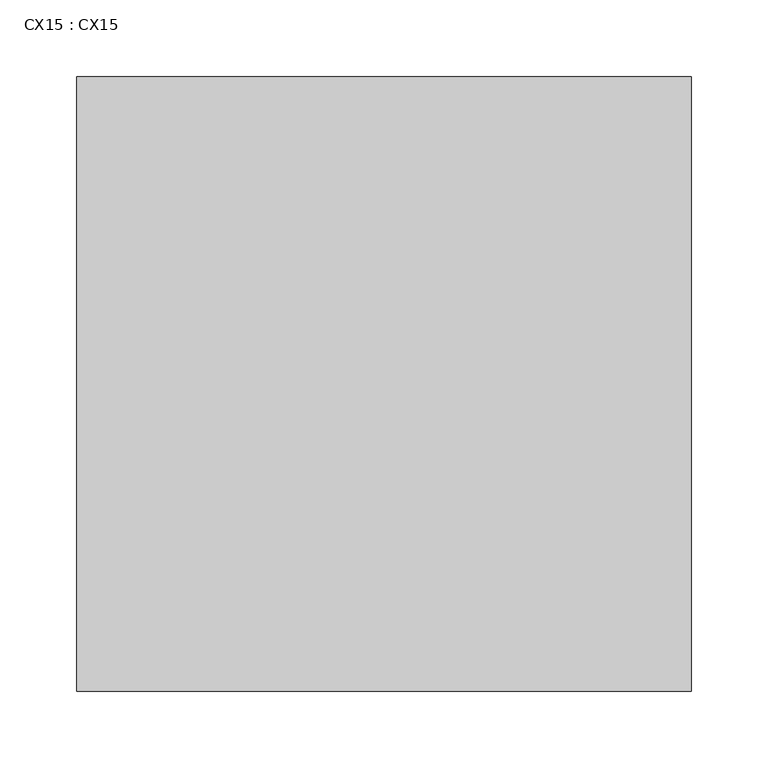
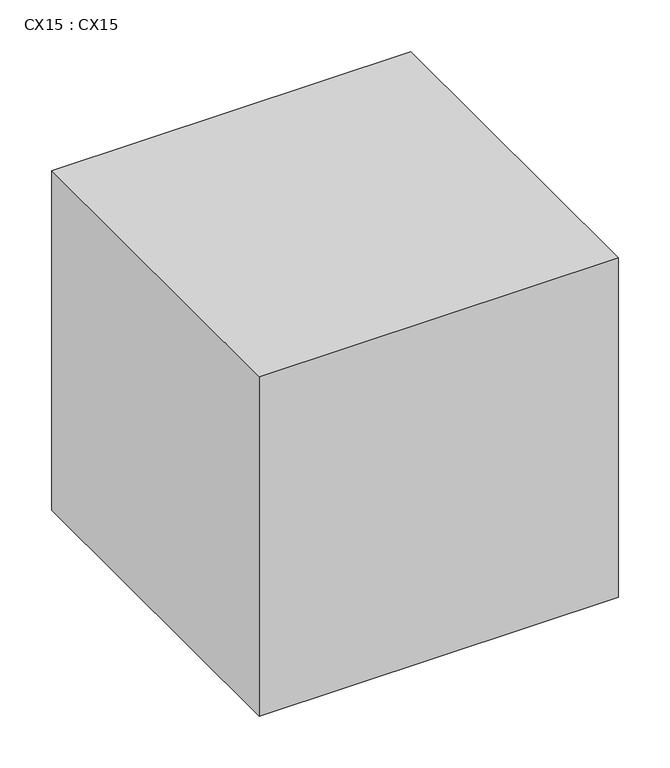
"""IFC4 building model written with IfcOpenShell, lengths in millimetres: proxy geometry, CX15 : CX15."""

import ifcopenshell
import ifcopenshell.guid

model = None  # the IFC model being written
_history = None  # IfcOwnerHistory: only IFC2X3 demands one
_inside = {}  # id of a spatial element -> (the spatial element, [elements in it])
_under = {}  # id of a project, library or spatial element -> (it, [spatial elements below it])
_declared = {}  # id of a project -> (the project, [libraries it declares])
_typed = {}  # id of a type object -> (the type object, [elements of that type])
_made_of = {}  # id of a material, layer set ... -> (it, [elements and type objects made of it])


def new_model(schema):
    """Start an empty IFC model of exactly this schema.

    Asked for "IFC4X3", IfcOpenShell would pick the latest addendum, in which some entities
    have other attributes; the version numbers below select the first issue.
    IFC2X3 requires an IfcOwnerHistory on every rooted entity: one is made here for all.
    """
    global model, _history
    if schema == "IFC4X3":
        model = ifcopenshell.file(schema_version=(4, 3, 0, 0))
    else:
        model = ifcopenshell.file(schema=schema)
    _inside.clear()
    _under.clear()
    _declared.clear()
    _typed.clear()
    _made_of.clear()
    _history = None
    if model.schema == "IFC2X3":
        org = make("IfcOrganization", Name="unknown")
        user = make(
            "IfcPersonAndOrganization",
            ThePerson=make("IfcPerson", FamilyName="unknown"),
            TheOrganization=org,
        )
        app = make(
            "IfcApplication",
            ApplicationDeveloper=org,
            Version="unknown",
            ApplicationFullName="unknown",
            ApplicationIdentifier="unknown",
        )
        _history = make(
            "IfcOwnerHistory",
            OwningUser=user,
            OwningApplication=app,
            ChangeAction="ADDED",
            CreationDate=0,
        )
    return model


def make(cls, **values):
    """One entity of the class cls with the attributes given. An attribute that is None is left unset."""
    return model.create_entity(
        cls, **{name: value for name, value in values.items() if value is not None}
    )


def rooted(cls, **values):
    """An entity with a GlobalId (a new one), such as an element, a storey or a relation."""
    return make(cls, GlobalId=ifcopenshell.guid.new(), OwnerHistory=_history, **values)


def si_unit(unit_type, name, prefix=None):
    """IfcSIUnit, for example si_unit("LENGTHUNIT", "METRE", prefix="MILLI")."""
    return make("IfcSIUnit", UnitType=unit_type, Prefix=prefix, Name=name)


def assignment(units):
    """IfcUnitAssignment: the units of a project."""
    return None if units is None else make("IfcUnitAssignment", Units=units)


def point(xyz):
    """IfcCartesianPoint."""
    return None if xyz is None else make("IfcCartesianPoint", Coordinates=xyz)


def direction(xyz):
    """IfcDirection."""
    return None if xyz is None else make("IfcDirection", DirectionRatios=xyz)


def frame(location, z_axis=None, x_axis=None):
    """IfcAxis2Placement3D, a coordinate frame: its origin and axes. An axis left out is left unset."""
    return make(
        "IfcAxis2Placement3D",
        Location=point(location),
        Axis=direction(z_axis),
        RefDirection=direction(x_axis),
    )


def origin():
    """The frame at (0, 0, 0) with its axes left unset."""
    return frame((0.0, 0.0, 0.0))


def place(relative_to, where):
    """IfcLocalPlacement: puts the frame where relative to a parent placement (None: the world)."""
    return make(
        "IfcLocalPlacement", PlacementRelTo=relative_to, RelativePlacement=where
    )


def context(
    kind, dimensions, precision=None, world=None, true_north=None, identifier=None
):
    """IfcGeometricRepresentationContext, for example the 3D "Model" context."""
    return make(
        "IfcGeometricRepresentationContext",
        ContextIdentifier=identifier,
        ContextType=kind,
        CoordinateSpaceDimension=dimensions,
        Precision=precision,
        WorldCoordinateSystem=world,
        TrueNorth=true_north,
    )


def project(units=None, contexts=None):
    """IfcProject with its units and contexts."""
    return rooted(
        "IfcProject",
        Name="project",
        RepresentationContexts=contexts,
        UnitsInContext=assignment(units),
    )


def spatial(cls, under=None, at=None, **own):
    """A site, building, storey or space (cls), placed at a placement, below another one or the project."""
    s = rooted(cls, ObjectPlacement=at, **own)
    if under is not None:
        _under.setdefault(under.id(), (under, []))[1].append(s)
    return s


def polyline(points):
    """IfcPolyline through the points."""
    return make("IfcPolyline", Points=[point(p) for p in points])


def outline(outer, holes=None, kind="AREA"):
    """IfcArbitraryClosedProfileDef: a profile drawn as a closed curve; with holes, ...WithVoids."""
    if holes is None:
        return make("IfcArbitraryClosedProfileDef", ProfileType=kind, OuterCurve=outer)
    return make(
        "IfcArbitraryProfileDefWithVoids",
        ProfileType=kind,
        OuterCurve=outer,
        InnerCurves=holes,
    )


def extrude(swept, where, along, depth):
    """IfcExtrudedAreaSolid: the profile swept, set in the frame where, extruded along a direction by depth."""
    return make(
        "IfcExtrudedAreaSolid",
        SweptArea=swept,
        Position=where,
        ExtrudedDirection=direction(along),
        Depth=depth,
    )


def shape(context_of_items, identifier, shape_type, items):
    """IfcShapeRepresentation: the items that make up one representation, for example the "Body"."""
    return make(
        "IfcShapeRepresentation",
        ContextOfItems=context_of_items,
        RepresentationIdentifier=identifier,
        RepresentationType=shape_type,
        Items=items,
    )


def source(mapping_origin, context_of_items, identifier, shape_type, items):
    """IfcRepresentationMap: a shape defined once, which mapped items show again and again."""
    return make(
        "IfcRepresentationMap",
        MappingOrigin=mapping_origin,
        MappedRepresentation=shape(context_of_items, identifier, shape_type, items),
    )


def transform(
    local_origin,
    x_axis=None,
    y_axis=None,
    z_axis=None,
    scale=None,
    scale2=None,
    scale3=None,
    uniform=True,
):
    """IfcCartesianTransformationOperator3D, or its non-uniform kind. x_axis, y_axis, z_axis: its Axis1, 2, 3."""
    if uniform:
        return make(
            "IfcCartesianTransformationOperator3D",
            Axis1=direction(x_axis),
            Axis2=direction(y_axis),
            LocalOrigin=point(local_origin),
            Scale=scale,
            Axis3=direction(z_axis),
        )
    return make(
        "IfcCartesianTransformationOperator3DnonUniform",
        Axis1=direction(x_axis),
        Axis2=direction(y_axis),
        LocalOrigin=point(local_origin),
        Scale=scale,
        Axis3=direction(z_axis),
        Scale2=scale2,
        Scale3=scale3,
    )


def mapped(mapping_source, mapping_target):
    """IfcMappedItem: shows the shape of a source again, moved by a transform."""
    return make(
        "IfcMappedItem", MappingSource=mapping_source, MappingTarget=mapping_target
    )


def made_of(thing, what):
    """Note that an element or type object is made of a material, layer set ...; save() writes the relation."""
    if what is not None:
        _made_of.setdefault(what.id(), (what, []))[1].append(thing)
    return thing


def element(
    cls,
    number,
    at=None,
    inside=None,
    cuts=None,
    type_object=None,
    material=None,
    context=None,
    identifier="Body",
    shape_type=None,
    held_by="IfcProductDefinitionShape",
    body=None,
    shapes=None,
    **own,
):
    """One element of the class cls, such as IfcWall. Its Tag is "e" and its number.

    at: its placement. inside: the storey or other place that contains it. cuts: it is an
    opening in that element (IfcRelVoidsElement). A single representation is given by context,
    identifier, shape_type and body (its items); several are given by shapes. held_by: the class
    of the entity that holds the representations. save() writes the other relations.
    """
    e = rooted(cls, Tag="e%d" % number, ObjectPlacement=at, **own)
    if body is not None:
        shapes = [shape(context, identifier, shape_type, body)]
    if shapes is not None:
        e.Representation = make(held_by, Representations=shapes)
    if inside is not None:
        _inside.setdefault(inside.id(), (inside, []))[1].append(e)
    if cuts is not None:
        rooted(
            "IfcRelVoidsElement", RelatingBuildingElement=cuts, RelatedOpeningElement=e
        )
    if type_object is not None:
        _typed.setdefault(type_object.id(), (type_object, []))[1].append(e)
    return made_of(e, material)


def aggregate(whole, parts):
    """IfcRelAggregates: a whole, such as a stair, and the parts it consists of."""
    return rooted("IfcRelAggregates", RelatingObject=whole, RelatedObjects=parts)


def save(model, path):
    """Write the relations noted so far, then the file.

    IfcRelAggregates (storeys below a building ...), IfcRelContainedInSpatialStructure (elements
    in a storey), IfcRelDefinesByType, IfcRelAssociatesMaterial and IfcRelDeclares: one each for
    every whole, place, type object, material and project.
    """
    for whole, parts in _under.values():
        aggregate(whole, parts)
    for where, things in _inside.values():
        rooted(
            "IfcRelContainedInSpatialStructure",
            RelatedElements=things,
            RelatingStructure=where,
        )
    for kind, things in _typed.values():
        rooted("IfcRelDefinesByType", RelatedObjects=things, RelatingType=kind)
    for what, things in _made_of.values():
        rooted("IfcRelAssociatesMaterial", RelatedObjects=things, RelatingMaterial=what)
    for by, libraries in _declared.values():
        rooted("IfcRelDeclares", RelatingContext=by, RelatedDefinitions=libraries)
    model.write(path)


def cx15_cx15_21d1d6eb(model_context):
    return source(origin(), model_context, "Body", "SweptSolid", [
        extrude(outline(polyline([(23002.7, 13706.7), (23402.7, 13706.7), (23402.7, 13306.7), (23002.7, 13306.7), (23002.7, 13706.7)])), frame((0.0, 0.0, -370.0), z_axis=(0.0, 0.0, 1.0), x_axis=(1.0, 0.0, 0.0)), (0.0, 0.0, 1.0), 400.0),
    ])


if __name__ == "__main__":
    model = new_model("IFC4")
    model_context = context("Model", 3, world=origin())
    ifc_project = project(units=[si_unit("LENGTHUNIT", "METRE", prefix="MILLI")], contexts=[model_context])
    site = spatial("IfcSite", under=ifc_project)
    building = spatial("IfcBuilding", under=site)
    placement = place(None, origin())
    cx15_cx15_shape = cx15_cx15_21d1d6eb(model_context)
    element("IfcBuildingElementProxy", 1, Name="CX15 : CX15", ObjectType="CX15 : CX15", at=placement, inside=building, context=model_context, shape_type="MappedRepresentation", body=[
        mapped(cx15_cx15_shape, transform((0.0, 0.0, 0.0), x_axis=(1.0, 0.0, 0.0), y_axis=(0.0, 1.0, 0.0), z_axis=(0.0, 0.0, 1.0))),
    ])
    save(model, "model.ifc")
